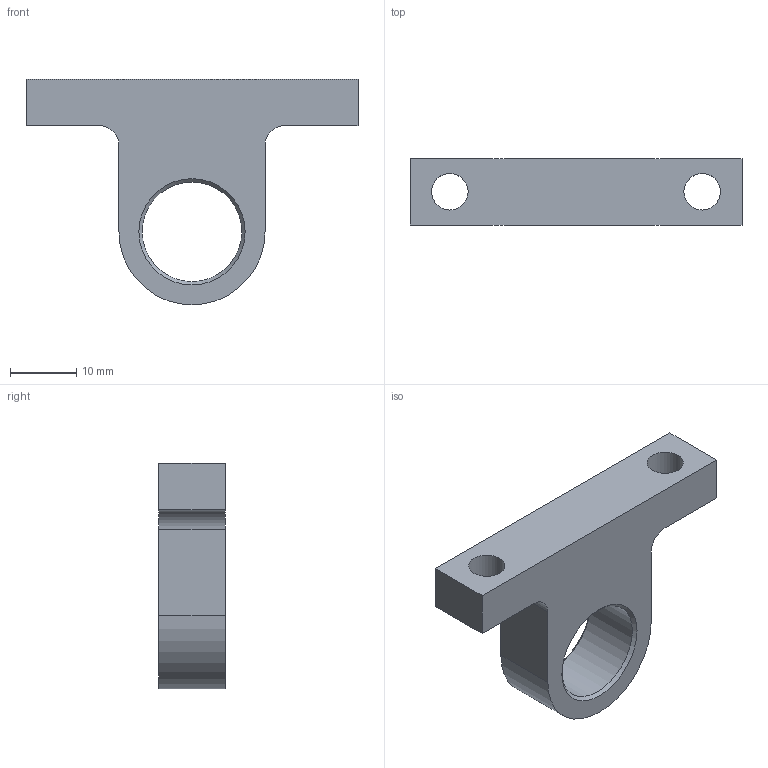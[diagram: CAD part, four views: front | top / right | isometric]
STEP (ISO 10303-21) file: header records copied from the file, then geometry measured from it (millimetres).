
FILE_DESCRIPTION(('STEP AP203'), '1');
FILE_NAME('ÒÏÏÔ1801.01.08.01.011 - Îïîðà îñè', '', ('UNSPECIFIED'), ('UNSPECIFIED'), 'C3D Converter', 'C3D Toolkit', '');
FILE_SCHEMA(('CONFIG_CONTROL_DESIGN'));
Length unit declared in the file: millimetre
Products named in the file (1): ТППФ1801.01.08.01.011
Bounding box: 50 x 10 x 34 mm (x, y, z)
Volume: 6847.5 mm3; surface area: 3589.4 mm2
Topology: 1 solids, 1 shells, 17 faces, 43 edges, 28 vertices
Faces by surface type: plane 9, cylinder 6, cone 2
Full cylindrical faces by diameter (mm): 5.5 x2, 15 x1
Entity records: 678 total; most frequent: DIRECTION 88, CARTESIAN_POINT 84, ORIENTED_EDGE 76, EDGE_CURVE 38, AXIS2_PLACEMENT_3D 32, EDGE_LOOP 28, VERTEX_POINT 28, LINE 24
